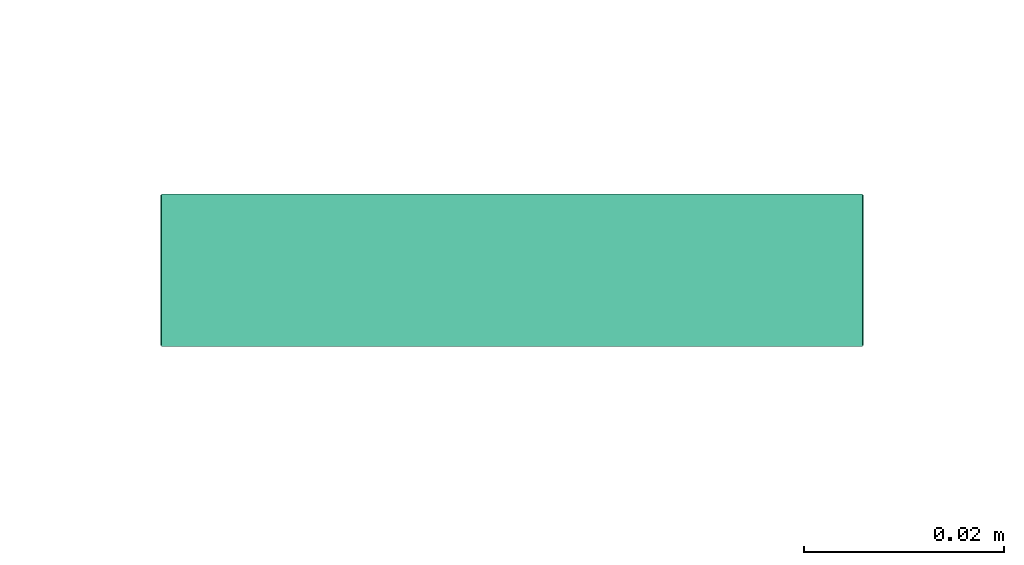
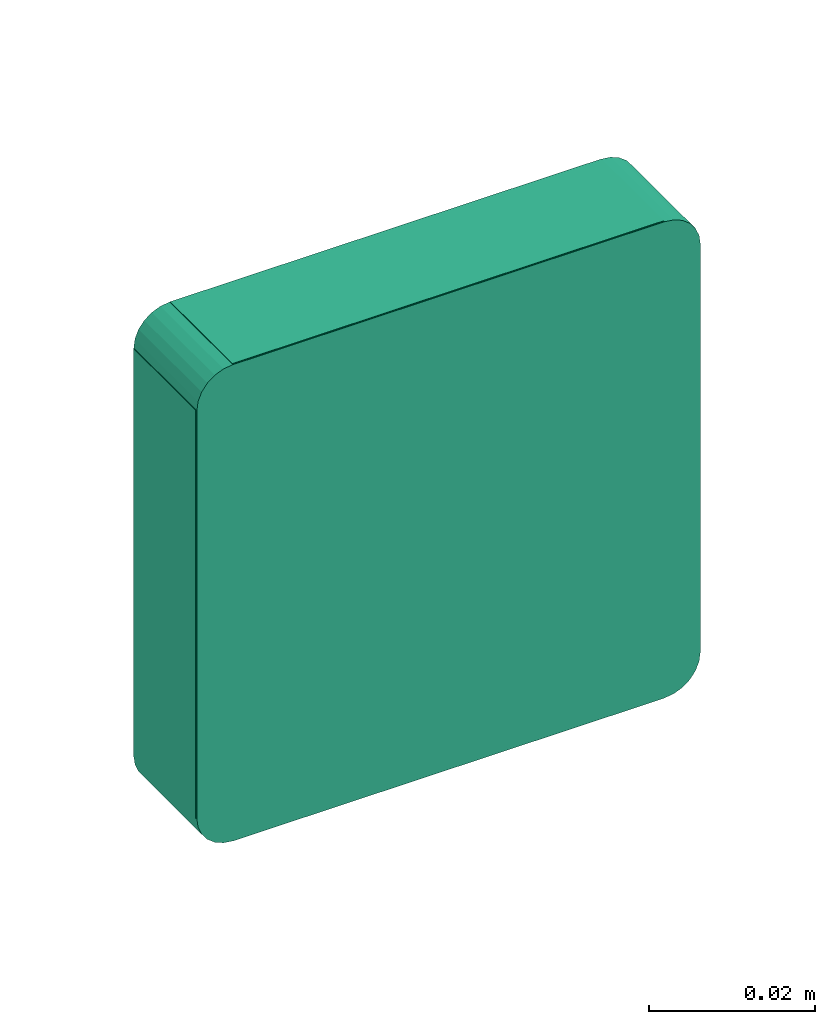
# One storey, part 2 of 10: 1 distribution control element.
"""IFC2X3 building model written with IfcOpenShell, lengths in millimetres."""

from ifc_helpers import new_model, entity, si_unit, converted_unit, derived_unit, direction, frame, origin_with_axes, place, context, subcontext, project, spatial, open_shell, surface_model, source, transform, mapped, type_object, element, save


model = new_model("IFC2X3")

# Units and contexts
model_context = context("Model", 3, precision=0.01, world=frame((0.0, 4.29681676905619e-09, 0.0)), true_north=direction((4.01073788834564e-13, 1.0)))
plan_context = context("Plan", 3, precision=0.01, world=frame((0.0, 4.29681676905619e-09, 0.0)), true_north=direction((4.01073788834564e-13, 1.0)))
body_context = subcontext(model_context, "Body", "Model", "MODEL_VIEW")
ifc_project = project(units=[converted_unit("PLANEANGLEUNIT", "DEGREE", entity("IfcPositiveLengthMeasure", 0.0174532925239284), si_unit("PLANEANGLEUNIT", "RADIAN"), dimensions=[0, 0, 0, 0, 0, 0, 0]), si_unit("AREAUNIT", "SQUARE_METRE"), si_unit("LENGTHUNIT", "METRE", prefix="MILLI"), si_unit("MASSUNIT", "GRAM", prefix="KILO"), si_unit("POWERUNIT", "WATT"), si_unit("PRESSUREUNIT", "PASCAL"), si_unit("FORCEUNIT", "NEWTON", prefix="KILO"), si_unit("ELECTRICVOLTAGEUNIT", "VOLT"), si_unit("ELECTRICCURRENTUNIT", "AMPERE"), si_unit("THERMODYNAMICTEMPERATUREUNIT", "DEGREE_CELSIUS"), si_unit("TIMEUNIT", "SECOND"), si_unit("VOLUMEUNIT", "CUBIC_METRE"), derived_unit("LINEARVELOCITYUNIT", [(si_unit("LENGTHUNIT", "METRE"), 1), (si_unit("TIMEUNIT", "SECOND"), -1)]), derived_unit("VOLUMETRICFLOWRATEUNIT", [(si_unit("VOLUMEUNIT", "CUBIC_METRE"), 1), (si_unit("TIMEUNIT", "SECOND"), -1)]), derived_unit("THERMALTRANSMITTANCEUNIT", [(si_unit("POWERUNIT", "WATT"), 1), (si_unit("THERMODYNAMICTEMPERATUREUNIT", "KELVIN"), -1), (si_unit("AREAUNIT", "SQUARE_METRE"), -1)]), derived_unit("SOUNDPRESSUREUNIT", [(si_unit("PRESSUREUNIT", "PASCAL"), 1)])], contexts=[model_context, plan_context])

# Site, building, storey
site_placement = place(None, frame((0.0, -4.29681676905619e-09, 0.0), z_axis=(0.0, 0.0, 1.0), x_axis=(1.0, 0.0, 0.0)))
site = spatial("IfcSite", under=ifc_project, at=site_placement, Name="ENGM", CompositionType="ELEMENT")
building_placement = place(site_placement, frame((0.0, 4.29681676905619e-09, 0.0), z_axis=(0.0, 0.0, 1.0), x_axis=(1.0, 0.0, 0.0)))
building = spatial("IfcBuilding", under=site, at=building_placement, Name="TS", CompositionType="ELEMENT")
storey_placement = place(building_placement, frame((0.0, 0.0, 210900.0), z_axis=(0.0, 0.0, 1.0), x_axis=(1.0, 0.0, 0.0)))
storey = spatial("IfcBuildingStorey", under=building, at=storey_placement, Name="Nivå F", CompositionType="ELEMENT", Elevation=210900.0)

# Distribution control element
alarm_type = type_object("IfcAlarmType", Name="Standard", PredefinedType="NOTDEFINED")
shared_shape = source(origin_with_axes(), body_context, "Body", "SurfaceModel", [
    surface_model("IfcShellBasedSurfaceModel", [(-30.0, 0.0, -35.1), (-30.0, 15.0, -35.1), (30.0, 0.0, -35.1), (30.0, 15.0, -35.1), (30.0, 0.0, -34.9), (30.0, 15.0, -34.9), (-30.0, 0.0, -34.9), (-30.0, 15.0, -34.9), (34.9, 15.0, -30.0), (34.9, 0.0, -30.0), (34.9, 15.0, 30.0), (34.9, 0.0, 30.0), (35.1, 15.0, 30.0), (35.1, 0.0, 30.0), (35.1, 15.0, -30.0), (35.1, 0.0, -30.0), (-35.1, 15.0, -30.0), (-35.1, 0.0, -30.0), (-35.1, 15.0, 30.0), (-35.1, 0.0, 30.0), (-34.9, 15.0, 30.0), (-34.9, 0.0, 30.0), (-34.9, 15.0, -30.0), (-34.9, 0.0, -30.0), (-30.0, 0.0, 34.9), (-30.0, 15.0, 34.9), (30.0, 0.0, 34.9), (30.0, 15.0, 34.9), (30.0, 0.0, 35.1), (30.0, 15.0, 35.1), (-30.0, 0.0, 35.1), (-30.0, 15.0, 35.1), (-35.0, 14.9, -30.0), (-30.0, 14.9, -30.0), (-35.0, 14.9, 30.0), (-30.0, 14.9, 30.0), (-35.0, 15.1, 30.0), (-30.0, 15.1, 30.0), (-30.0, 15.1, -30.0), (-35.0, 15.1, -30.0), (-30.0, 14.9, -35.0), (30.0, 14.9, -35.0), (30.0, 14.9, -30.0), (30.0, 15.1, -30.0), (30.0, 15.1, -35.0), (-30.0, 15.1, -35.0), (35.0, 14.9, -30.0), (30.0, 14.9, 30.0), (35.0, 14.9, 30.0), (30.0, 15.1, 30.0), (35.0, 15.1, 30.0), (35.0, 15.1, -30.0), (-35.0, -0.1, -30.0), (-30.0, -0.1, -30.0), (-35.0, -0.1, 30.0), (-30.0, -0.1, 30.0), (-35.0, 0.1, 30.0), (-30.0, 0.1, 30.0), (-30.0, 0.1, -30.0), (-35.0, 0.1, -30.0), (-30.0, -0.1, -35.0), (30.0, -0.1, -35.0), (30.0, -0.1, -30.0), (30.0, 0.1, -30.0), (30.0, 0.1, -35.0), (-30.0, 0.1, -35.0), (35.0, -0.1, -30.0), (30.0, -0.1, 30.0), (35.0, -0.1, 30.0), (30.0, 0.1, 30.0), (35.0, 0.1, 30.0), (35.0, 0.1, -30.0), (30.0, 14.9, 35.0), (-30.0, 14.9, 35.0), (-30.0, 15.1, 35.0), (30.0, 15.1, 35.0), (30.0, -0.1, 35.0), (-30.0, -0.1, 35.0), (-30.0, 0.1, 35.0), (30.0, 0.1, 35.0), (-34.82963, 15.0, -31.2941), (-35.0, 15.0, -30.0), (-34.2, 15.0, -30.0), (-34.05689, 15.0, -31.08704), (-34.33013, 15.0, -32.5), (-33.63731, 15.0, -32.1), (-33.53553, 15.0, -33.53553), (-32.96985, 15.0, -32.96985), (-32.1, 15.0, -33.63731), (-31.08704, 15.0, -34.05689), (-32.5, 15.0, -34.33013), (-31.2941, 15.0, -34.82963), (-30.0, 15.0, -34.2), (-30.0, 15.0, -35.0), (-32.5, 0.0, -34.33013), (-32.1, 0.0, -33.63731), (-33.53553, 0.0, -33.53553), (-31.08704, 0.0, -34.05689), (-30.0, 0.0, -35.0), (-30.0, 0.0, -34.2), (-31.2941, 0.0, -34.82963), (-32.96985, 0.0, -32.96985), (-34.82963, 0.0, -31.2941), (-34.05689, 0.0, -31.08704), (-34.2, 0.0, -30.0), (-35.0, 0.0, -30.0), (-33.63731, 0.0, -32.1), (-34.33013, 0.0, -32.5), (31.2941, 15.0, -34.82963), (30.0, 15.0, -35.0), (30.0, 15.0, -34.2), (31.08704, 15.0, -34.05689), (32.5, 15.0, -34.33013), (32.1, 15.0, -33.63731), (33.53553, 15.0, -33.53553), (32.96985, 15.0, -32.96985), (33.63731, 15.0, -32.1), (34.05689, 15.0, -31.08704), (34.33013, 15.0, -32.5), (34.82963, 15.0, -31.2941), (34.2, 15.0, -30.0), (35.0, 15.0, -30.0), (34.33013, 0.0, -32.5), (33.63731, 0.0, -32.1), (33.53553, 0.0, -33.53553), (34.05689, 0.0, -31.08704), (35.0, 0.0, -30.0), (34.2, 0.0, -30.0), (34.82963, 0.0, -31.2941), (32.96985, 0.0, -32.96985), (31.2941, 0.0, -34.82963), (31.08704, 0.0, -34.05689), (30.0, 0.0, -34.2), (30.0, 0.0, -35.0), (32.1, 0.0, -33.63731), (32.5, 0.0, -34.33013), (-31.2941, 15.0, 34.82963), (-30.0, 15.0, 35.0), (-30.0, 15.0, 34.2), (-31.08704, 15.0, 34.05689), (-32.5, 15.0, 34.33013), (-32.1, 15.0, 33.63731), (-33.53553, 15.0, 33.53553), (-32.96985, 15.0, 32.96985), (-33.63731, 15.0, 32.1), (-34.05689, 15.0, 31.08704), (-34.33013, 15.0, 32.5), (-34.82963, 15.0, 31.2941), (-34.2, 15.0, 30.0), (-35.0, 15.0, 30.0), (-34.33013, 0.0, 32.5), (-33.63731, 0.0, 32.1), (-33.53553, 0.0, 33.53553), (-34.05689, 0.0, 31.08704), (-35.0, 0.0, 30.0), (-34.2, 0.0, 30.0), (-34.82963, 0.0, 31.2941), (-32.96985, 0.0, 32.96985), (-31.2941, 0.0, 34.82963), (-31.08704, 0.0, 34.05689), (-30.0, 0.0, 34.2), (-30.0, 0.0, 35.0), (-32.1, 0.0, 33.63731), (-32.5, 0.0, 34.33013), (34.82963, 15.0, 31.2941), (35.0, 15.0, 30.0), (34.2, 15.0, 30.0), (34.05689, 15.0, 31.08704), (34.33013, 15.0, 32.5), (33.63731, 15.0, 32.1), (33.53553, 15.0, 33.53553), (32.96985, 15.0, 32.96985), (32.1, 15.0, 33.63731), (31.08704, 15.0, 34.05689), (32.5, 15.0, 34.33013), (31.2941, 15.0, 34.82963), (30.0, 15.0, 34.2), (30.0, 15.0, 35.0), (32.5, 0.0, 34.33013), (32.1, 0.0, 33.63731), (33.53553, 0.0, 33.53553), (31.08704, 0.0, 34.05689), (30.0, 0.0, 35.0), (30.0, 0.0, 34.2), (31.2941, 0.0, 34.82963), (32.96985, 0.0, 32.96985), (34.82963, 0.0, 31.2941), (34.05689, 0.0, 31.08704), (34.2, 0.0, 30.0), (35.0, 0.0, 30.0), (33.63731, 0.0, 32.1), (34.33013, 0.0, 32.5), (-34.33013, 15.1, -32.5), (-34.82963, 15.1, -31.2941), (-33.53553, 15.1, -33.53553), (-32.5, 15.1, -34.33013), (-31.2941, 15.1, -34.82963), (-32.5, 14.9, -34.33013), (-31.2941, 14.9, -34.82963), (-33.53553, 14.9, -33.53553), (-34.33013, 14.9, -32.5), (-34.82963, 14.9, -31.2941), (32.5, 15.1, -34.33013), (31.2941, 15.1, -34.82963), (33.53553, 15.1, -33.53553), (34.33013, 15.1, -32.5), (34.82963, 15.1, -31.2941), (34.33013, 14.9, -32.5), (34.82963, 14.9, -31.2941), (33.53553, 14.9, -33.53553), (31.2941, 14.9, -34.82963), (32.5, 14.9, -34.33013), (-34.33013, 0.1, -32.5), (-34.82963, 0.1, -31.2941), (-33.53553, 0.1, -33.53553), (-32.5, 0.1, -34.33013), (-31.2941, 0.1, -34.82963), (-32.5, -0.1, -34.33013), (-31.2941, -0.1, -34.82963), (-33.53553, -0.1, -33.53553), (-34.33013, -0.1, -32.5), (-34.82963, -0.1, -31.2941), (32.5, 0.1, -34.33013), (31.2941, 0.1, -34.82963), (33.53553, 0.1, -33.53553), (34.33013, 0.1, -32.5), (34.82963, 0.1, -31.2941), (34.33013, -0.1, -32.5), (34.82963, -0.1, -31.2941), (33.53553, -0.1, -33.53553), (31.2941, -0.1, -34.82963), (32.5, -0.1, -34.33013), (-32.5, 15.1, 34.33013), (-31.2941, 15.1, 34.82963), (-33.53553, 15.1, 33.53553), (-34.33013, 15.1, 32.5), (-34.82963, 15.1, 31.2941), (-34.33013, 14.9, 32.5), (-34.82963, 14.9, 31.2941), (-33.53553, 14.9, 33.53553), (-31.2941, 14.9, 34.82963), (-32.5, 14.9, 34.33013), (-32.5, 0.1, 34.33013), (-31.2941, 0.1, 34.82963), (-33.53553, 0.1, 33.53553), (-34.33013, 0.1, 32.5), (-34.82963, 0.1, 31.2941), (-34.33013, -0.1, 32.5), (-34.82963, -0.1, 31.2941), (-33.53553, -0.1, 33.53553), (-31.2941, -0.1, 34.82963), (-32.5, -0.1, 34.33013), (34.33013, 15.1, 32.5), (34.82963, 15.1, 31.2941), (33.53553, 15.1, 33.53553), (32.5, 15.1, 34.33013), (31.2941, 15.1, 34.82963), (32.5, 14.9, 34.33013), (31.2941, 14.9, 34.82963), (33.53553, 14.9, 33.53553), (34.82963, 14.9, 31.2941), (34.33013, 14.9, 32.5), (34.33013, 0.1, 32.5), (34.82963, 0.1, 31.2941), (33.53553, 0.1, 33.53553), (32.5, 0.1, 34.33013), (31.2941, 0.1, 34.82963), (32.5, -0.1, 34.33013), (31.2941, -0.1, 34.82963), (33.53553, -0.1, 33.53553), (34.82963, -0.1, 31.2941), (34.33013, -0.1, 32.5)], [open_shell([[[0, 1, 2]], [[3, 2, 1]], [[4, 5, 6]], [[7, 6, 5]], [[3, 1, 7]], [[7, 5, 3]], [[2, 3, 5]], [[5, 4, 2]], [[0, 2, 4]], [[4, 6, 0]], [[1, 0, 6]], [[6, 7, 1]], [[8, 9, 10]], [[11, 10, 9]], [[12, 13, 14]], [[15, 14, 13]], [[11, 9, 15]], [[15, 13, 11]], [[10, 11, 13]], [[13, 12, 10]], [[8, 10, 12]], [[12, 14, 8]], [[9, 8, 14]], [[14, 15, 9]], [[16, 17, 18]], [[19, 18, 17]], [[20, 21, 22]], [[23, 22, 21]], [[19, 17, 23]], [[23, 21, 19]], [[18, 19, 21]], [[21, 20, 18]], [[16, 18, 20]], [[20, 22, 16]], [[17, 16, 22]], [[22, 23, 17]], [[24, 25, 26]], [[27, 26, 25]], [[28, 29, 30]], [[31, 30, 29]], [[27, 25, 31]], [[31, 29, 27]], [[26, 27, 29]], [[29, 28, 26]], [[24, 26, 28]], [[28, 30, 24]], [[25, 24, 30]], [[30, 31, 25]], [[32, 33, 34]], [[35, 34, 33]], [[36, 37, 38]], [[38, 39, 36]], [[35, 33, 38]], [[38, 37, 35]], [[34, 35, 37]], [[37, 36, 34]], [[32, 34, 36]], [[36, 39, 32]], [[33, 32, 39]], [[39, 38, 33]], [[40, 41, 42]], [[42, 33, 40]], [[38, 43, 44]], [[44, 45, 38]], [[42, 41, 44]], [[44, 43, 42]], [[33, 42, 43]], [[43, 38, 33]], [[40, 33, 38]], [[38, 45, 40]], [[41, 40, 45]], [[45, 44, 41]], [[42, 46, 47]], [[48, 47, 46]], [[49, 50, 51]], [[51, 43, 49]], [[48, 46, 51]], [[51, 50, 48]], [[47, 48, 50]], [[50, 49, 47]], [[42, 47, 49]], [[49, 43, 42]], [[46, 42, 43]], [[43, 51, 46]], [[52, 53, 54]], [[55, 54, 53]], [[56, 57, 58]], [[58, 59, 56]], [[55, 53, 58]], [[58, 57, 55]], [[54, 55, 57]], [[57, 56, 54]], [[52, 54, 56]], [[56, 59, 52]], [[53, 52, 59]], [[59, 58, 53]], [[60, 61, 62]], [[62, 53, 60]], [[58, 63, 64]], [[64, 65, 58]], [[62, 61, 64]], [[64, 63, 62]], [[53, 62, 63]], [[63, 58, 53]], [[60, 53, 58]], [[58, 65, 60]], [[61, 60, 65]], [[65, 64, 61]], [[62, 66, 67]], [[68, 67, 66]], [[69, 70, 71]], [[71, 63, 69]], [[68, 66, 71]], [[71, 70, 68]], [[67, 68, 70]], [[70, 69, 67]], [[62, 67, 69]], [[69, 63, 62]], [[66, 62, 63]], [[63, 71, 66]], [[35, 47, 72]], [[72, 73, 35]], [[74, 75, 49]], [[49, 37, 74]], [[72, 47, 49]], [[49, 75, 72]], [[73, 72, 75]], [[75, 74, 73]], [[35, 73, 74]], [[74, 37, 35]], [[47, 35, 37]], [[37, 49, 47]], [[55, 67, 76]], [[76, 77, 55]], [[78, 79, 69]], [[69, 57, 78]], [[76, 67, 69]], [[69, 79, 76]], [[77, 76, 79]], [[79, 78, 77]], [[55, 77, 78]], [[78, 57, 55]], [[67, 55, 57]], [[57, 69, 67]], [[33, 42, 47]], [[47, 35, 33]], [[37, 49, 43]], [[43, 38, 37]], [[47, 42, 43]], [[43, 49, 47]], [[35, 47, 49]], [[49, 37, 35]], [[33, 35, 37]], [[37, 38, 33]], [[42, 33, 38]], [[38, 43, 42]], [[53, 62, 67]], [[67, 55, 53]], [[57, 69, 63]], [[63, 58, 57]], [[67, 62, 63]], [[63, 69, 67]], [[55, 67, 69]], [[69, 57, 55]], [[53, 55, 57]], [[57, 58, 53]], [[62, 53, 58]], [[58, 63, 62]], [[80, 81, 82]], [[80, 82, 83]], [[80, 83, 84]], [[85, 86, 84]], [[86, 85, 87]], [[83, 85, 84]], [[88, 89, 90]], [[88, 90, 86]], [[90, 89, 91]], [[92, 93, 91]], [[89, 92, 91]], [[88, 86, 87]], [[94, 95, 96]], [[97, 95, 94]], [[98, 99, 100]], [[100, 99, 97]], [[97, 94, 100]], [[95, 101, 96]], [[102, 103, 104]], [[102, 104, 105]], [[96, 106, 107]], [[106, 96, 101]], [[107, 106, 103]], [[103, 102, 107]], [[82, 81, 104]], [[105, 104, 81]], [[83, 82, 104]], [[85, 83, 103]], [[103, 83, 104]], [[101, 87, 106]], [[85, 103, 106]], [[85, 106, 87]], [[89, 88, 95]], [[92, 89, 97]], [[95, 88, 101]], [[89, 95, 97]], [[92, 97, 99]], [[87, 101, 88]], [[93, 92, 98]], [[99, 98, 92]], [[91, 98, 100]], [[90, 100, 94]], [[93, 98, 91]], [[90, 91, 100]], [[86, 90, 94]], [[94, 96, 86]], [[84, 96, 107]], [[80, 107, 102]], [[84, 107, 80]], [[81, 80, 102]], [[105, 81, 102]], [[96, 84, 86]], [[108, 109, 110]], [[108, 110, 111]], [[108, 111, 112]], [[113, 114, 112]], [[114, 113, 115]], [[111, 113, 112]], [[116, 117, 118]], [[116, 118, 114]], [[118, 117, 119]], [[120, 121, 119]], [[117, 120, 119]], [[116, 114, 115]], [[122, 123, 124]], [[125, 123, 122]], [[126, 127, 128]], [[128, 127, 125]], [[125, 122, 128]], [[123, 129, 124]], [[130, 131, 132]], [[130, 132, 133]], [[124, 134, 135]], [[134, 124, 129]], [[135, 134, 131]], [[131, 130, 135]], [[110, 109, 132]], [[133, 132, 109]], [[111, 110, 132]], [[113, 111, 131]], [[131, 111, 132]], [[129, 115, 134]], [[113, 131, 134]], [[113, 134, 115]], [[117, 116, 123]], [[120, 117, 125]], [[123, 116, 129]], [[117, 123, 125]], [[120, 125, 127]], [[115, 129, 116]], [[121, 120, 127]], [[127, 126, 121]], [[119, 126, 128]], [[118, 128, 122]], [[121, 126, 119]], [[118, 119, 128]], [[114, 118, 122]], [[122, 124, 114]], [[112, 124, 135]], [[108, 135, 130]], [[112, 135, 108]], [[109, 108, 130]], [[133, 109, 130]], [[124, 112, 114]], [[136, 137, 138]], [[136, 138, 139]], [[136, 139, 140]], [[141, 142, 140]], [[142, 141, 143]], [[139, 141, 140]], [[144, 145, 146]], [[144, 146, 142]], [[146, 145, 147]], [[148, 149, 147]], [[145, 148, 147]], [[144, 142, 143]], [[150, 151, 152]], [[153, 151, 150]], [[154, 155, 156]], [[156, 155, 153]], [[153, 150, 156]], [[151, 157, 152]], [[158, 159, 160]], [[158, 160, 161]], [[152, 162, 163]], [[162, 152, 157]], [[163, 162, 159]], [[159, 158, 163]], [[138, 137, 160]], [[161, 160, 137]], [[139, 138, 160]], [[141, 139, 159]], [[159, 139, 160]], [[157, 143, 162]], [[141, 159, 162]], [[141, 162, 143]], [[145, 144, 151]], [[148, 145, 153]], [[151, 144, 157]], [[145, 151, 153]], [[148, 153, 155]], [[143, 157, 144]], [[149, 148, 154]], [[155, 154, 148]], [[147, 154, 156]], [[146, 156, 150]], [[149, 154, 147]], [[146, 147, 156]], [[142, 146, 150]], [[150, 152, 142]], [[140, 152, 163]], [[136, 163, 158]], [[140, 163, 136]], [[137, 136, 158]], [[161, 137, 158]], [[152, 140, 142]], [[164, 165, 166]], [[164, 166, 167]], [[164, 167, 168]], [[169, 170, 168]], [[170, 169, 171]], [[167, 169, 168]], [[172, 173, 174]], [[172, 174, 170]], [[174, 173, 175]], [[176, 177, 175]], [[173, 176, 175]], [[172, 170, 171]], [[178, 179, 180]], [[181, 179, 178]], [[182, 183, 184]], [[184, 183, 181]], [[181, 178, 184]], [[179, 185, 180]], [[186, 187, 188]], [[186, 188, 189]], [[180, 190, 191]], [[190, 180, 185]], [[191, 190, 187]], [[187, 186, 191]], [[166, 165, 188]], [[189, 188, 165]], [[167, 166, 188]], [[169, 167, 187]], [[187, 167, 188]], [[185, 171, 190]], [[169, 187, 190]], [[169, 190, 171]], [[173, 172, 179]], [[176, 173, 181]], [[179, 172, 185]], [[173, 179, 181]], [[176, 181, 183]], [[171, 185, 172]], [[177, 176, 182]], [[183, 182, 176]], [[175, 182, 184]], [[174, 184, 178]], [[177, 182, 175]], [[174, 175, 184]], [[170, 174, 178]], [[178, 180, 170]], [[168, 180, 191]], [[164, 191, 186]], [[168, 191, 164]], [[165, 164, 186]], [[189, 165, 186]], [[180, 168, 170]], [[38, 192, 193]], [[38, 194, 192]], [[193, 39, 38]], [[195, 38, 196]], [[38, 195, 194]], [[45, 196, 38]], [[33, 197, 198]], [[197, 33, 199]], [[198, 40, 33]], [[200, 33, 201]], [[199, 33, 200]], [[201, 33, 32]], [[38, 39, 32]], [[32, 33, 38]], [[45, 38, 33]], [[33, 40, 45]], [[196, 40, 198]], [[195, 198, 197]], [[45, 40, 196]], [[195, 196, 198]], [[194, 195, 197]], [[197, 199, 194]], [[192, 199, 200]], [[193, 200, 201]], [[192, 200, 193]], [[39, 193, 201]], [[32, 39, 201]], [[199, 192, 194]], [[202, 203, 43]], [[43, 204, 202]], [[43, 203, 44]], [[205, 43, 206]], [[43, 205, 204]], [[51, 206, 43]], [[42, 207, 208]], [[207, 42, 209]], [[208, 46, 42]], [[210, 211, 42]], [[209, 42, 211]], [[42, 41, 210]], [[43, 44, 41]], [[41, 42, 43]], [[51, 43, 42]], [[42, 46, 51]], [[206, 46, 208]], [[205, 208, 207]], [[51, 46, 206]], [[205, 206, 208]], [[204, 205, 207]], [[207, 209, 204]], [[202, 209, 211]], [[203, 211, 210]], [[202, 211, 203]], [[44, 203, 210]], [[41, 44, 210]], [[209, 202, 204]], [[58, 212, 213]], [[58, 214, 212]], [[213, 59, 58]], [[215, 58, 216]], [[58, 215, 214]], [[65, 216, 58]], [[53, 217, 218]], [[217, 53, 219]], [[218, 60, 53]], [[220, 53, 221]], [[219, 53, 220]], [[221, 53, 52]], [[58, 59, 52]], [[52, 53, 58]], [[65, 58, 53]], [[53, 60, 65]], [[216, 60, 218]], [[215, 218, 217]], [[65, 60, 216]], [[215, 216, 218]], [[214, 215, 217]], [[217, 219, 214]], [[212, 219, 220]], [[213, 220, 221]], [[212, 220, 213]], [[59, 213, 221]], [[52, 59, 221]], [[219, 212, 214]], [[222, 223, 63]], [[63, 224, 222]], [[63, 223, 64]], [[225, 63, 226]], [[63, 225, 224]], [[71, 226, 63]], [[62, 227, 228]], [[227, 62, 229]], [[228, 66, 62]], [[230, 231, 62]], [[229, 62, 231]], [[62, 61, 230]], [[63, 64, 62]], [[61, 62, 64]], [[71, 63, 66]], [[62, 66, 63]], [[226, 66, 228]], [[225, 228, 227]], [[71, 66, 226]], [[225, 226, 228]], [[224, 225, 227]], [[227, 229, 224]], [[222, 229, 231]], [[223, 231, 230]], [[222, 231, 223]], [[64, 223, 230]], [[61, 64, 230]], [[229, 222, 224]], [[232, 233, 37]], [[37, 234, 232]], [[37, 233, 74]], [[235, 37, 236]], [[37, 235, 234]], [[36, 236, 37]], [[35, 237, 238]], [[237, 35, 239]], [[238, 34, 35]], [[240, 241, 35]], [[239, 35, 241]], [[35, 73, 240]], [[37, 74, 73]], [[73, 35, 37]], [[36, 37, 35]], [[35, 34, 36]], [[236, 34, 238]], [[235, 238, 237]], [[36, 34, 236]], [[235, 236, 238]], [[234, 235, 237]], [[237, 239, 234]], [[232, 239, 241]], [[233, 241, 240]], [[232, 241, 233]], [[74, 233, 240]], [[73, 74, 240]], [[239, 232, 234]], [[242, 243, 57]], [[57, 244, 242]], [[57, 243, 78]], [[245, 57, 246]], [[57, 245, 244]], [[56, 246, 57]], [[55, 247, 248]], [[247, 55, 249]], [[248, 54, 55]], [[250, 251, 55]], [[249, 55, 251]], [[55, 77, 250]], [[57, 78, 77]], [[77, 55, 57]], [[56, 57, 55]], [[55, 54, 56]], [[246, 54, 248]], [[245, 248, 247]], [[56, 54, 246]], [[245, 246, 248]], [[244, 245, 247]], [[247, 249, 244]], [[242, 249, 251]], [[243, 251, 250]], [[242, 251, 243]], [[78, 243, 250]], [[77, 78, 250]], [[249, 242, 244]], [[252, 253, 49]], [[49, 254, 252]], [[49, 253, 50]], [[255, 49, 256]], [[49, 255, 254]], [[75, 256, 49]], [[47, 257, 258]], [[257, 47, 259]], [[258, 72, 47]], [[260, 261, 47]], [[259, 47, 261]], [[47, 48, 260]], [[49, 50, 48]], [[48, 47, 49]], [[75, 49, 47]], [[47, 72, 75]], [[256, 72, 258]], [[255, 258, 257]], [[75, 72, 256]], [[255, 256, 258]], [[254, 255, 257]], [[257, 259, 254]], [[252, 259, 261]], [[253, 261, 260]], [[252, 261, 253]], [[50, 253, 260]], [[48, 50, 260]], [[259, 252, 254]], [[262, 263, 69]], [[69, 264, 262]], [[69, 263, 70]], [[265, 69, 266]], [[69, 265, 264]], [[79, 266, 69]], [[67, 267, 268]], [[267, 67, 269]], [[268, 76, 67]], [[270, 271, 67]], [[269, 67, 271]], [[67, 68, 270]], [[69, 70, 68]], [[68, 67, 69]], [[79, 69, 67]], [[67, 76, 79]], [[266, 76, 268]], [[265, 268, 267]], [[79, 76, 266]], [[265, 266, 268]], [[264, 265, 267]], [[267, 269, 264]], [[262, 269, 271]], [[263, 271, 270]], [[262, 271, 263]], [[70, 263, 270]], [[68, 70, 270]], [[269, 262, 264]]])]),
])
distribution_control_element_placement = place(storey_placement, frame((535524.41397, 443025.0, 1000.0), z_axis=(0.0, 0.0, 1.0), x_axis=(-1.0, 0.0, 0.0)))
element("IfcDistributionControlElement", 1, at=distribution_control_element_placement, inside=storey, type_object=alarm_type, Name="Standard", context=body_context, shape_type="MappedRepresentation", body=[
    mapped(shared_shape, transform((0.0, 0.0, 0.0), scale=1.0)),
])

save(model, "model.ifc")
